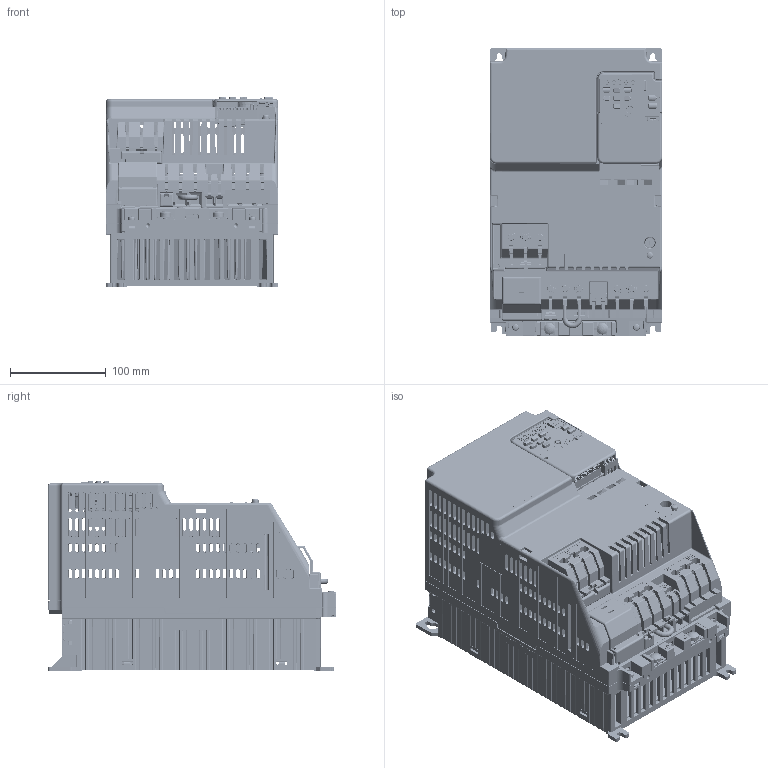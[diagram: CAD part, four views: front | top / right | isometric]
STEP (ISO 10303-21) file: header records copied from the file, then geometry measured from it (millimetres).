
FILE_DESCRIPTION((''),'2;1');
FILE_NAME('GA500_EMC_FRAME_V6-A_ASM','2019-03-08T',('jam'),('YASKAWA ELECTRIC CORCORATION'),'PRO/ENGINEER BY PARAMETRIC TECHNOLOGY CORPORATION, 2015440','PRO/ENGINEER BY PARAMETRIC TECHNOLOGY CORPORATION, 2015440','');
FILE_SCHEMA(('CONFIG_CONTROL_DESIGN'));
Products named in the file (54): LAY_KIPR-GA50_Q_2056_1; 400-104-202_1; 400-104-430_1; SCAT41094_1; 06025VG-24S-BA-YY_02_1; 400-104-173_1; 400-104-279-01B-1_1; MKDS10HV_2-ZB-10P16_1; 300-093-088_1; ETP761690_ASM_1_ASM; SCAT41285_M4X12_TOGARISAKIKARI_; 400-104-428_ASM_1_ASM; 400-104-310-01C-2_1; ETX731460_ASM_1_ASM; TS21A_M4-08_1; 400-104-676_1; HSR-M4-7P4_1; 400-104-676_ASM_1_ASM; 400-104-023-01F-5_1; 95003-2884_1; B12B-PASK-1_1; 1734753-1_AF1_1; DHB-PD20-S131N-4P9_AF1_1; KARI_SPTA1_9-3P5_AF0_1; KARI_SPTA1_8-3P5_AF0_1; SPTA1_11-3P5_AF0_1; SPTA1_3-5P0_AF0_1; KTC750050-SXXXX_ASM_1_ASM; WRMT41412_ASM_1; 400-115-277_1; F354371_1; F354373_1; F354374_1; F354372_1; V-GEM_PWB2_1; 55265-0811_AF0_1; SM10B-SURS-TF_1_1; V-GIM_PWB_ASM2_ASM_1_ASM; GA500_KEYPAD_20180227_ASM_1_ASM; 400-104-186_1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
Assembly tree (62 placements, depth 5):
  GA500_EMC_FRAME_V6-A_ASM
    KIPR-GA50_Q_2056_ASM_1_ASM
      LAY_KIPR-GA50_Q_2056_1
      400-104-202_1
      400-104-430_1
      SCAT41094_1  x2
      06025VG-24S-BA-YY_02_1  x2
      400-104-173_1
      ETP761690_ASM_1_ASM
        400-104-279-01B-1_1
        MKDS10HV_2-ZB-10P16_1
        300-093-088_1  x2
      SCAT41285_M4X12_TOGARISAKIKARI_  x4
      400-104-428_ASM_1_ASM
      ETX731460_ASM_1_ASM
        400-104-310-01C-2_1
        300-093-088_1
      TS21A_M4-08_1  x2
      400-104-676_ASM_1_ASM
        400-104-676_1
        HSR-M4-7P4_1
      KTC750050-SXXXX_ASM_1_ASM
        400-104-023-01F-5_1
        95003-2884_1
        B12B-PASK-1_1
        1734753-1_AF1_1
        DHB-PD20-S131N-4P9_AF1_1
        KARI_SPTA1_9-3P5_AF0_1
        KARI_SPTA1_8-3P5_AF0_1
        SPTA1_11-3P5_AF0_1
        SPTA1_3-5P0_AF0_1
      WRMT41412_ASM_1
      400-115-277_1
      GA500_KEYPAD_20180227_ASM_1_ASM
        F354371_1
        F354373_1
        F354374_1
        F354372_1
        V-GIM_PWB_ASM2_ASM_1_ASM
          V-GEM_PWB2_1
          55265-0811_AF0_1
          SM10B-SURS-TF_1_1
      400-104-186_1
      400-104-251_1
      400-112-421_1
      400-112-422_1
      400-107-678_1
      400-115-297-005_1
      MS15_M4X20_1
      400-104-204_4_1  x2
      400-104-204_1_1
      400-104-204_2_1
      400-104-204_3_1
      400-104-206_6_1
      400-104-204_7_1
Bounding box: 180.02 x 300 x 198.75 mm (x, y, z)
Volume: 916638.5 mm3; surface area: 1031515.5 mm2
Topology: 51 solids, 78 shells, 23909 faces, 66095 edges, 42650 vertices
Faces by surface type: plane 14403, cylinder 4998, bspline 1875, cone 1650, torus 702, sphere 280, revolution 1
Entity records: 851958 total; most frequent: CARTESIAN_POINT 285679, ORIENTED_EDGE 125348, DIRECTION 106323, EDGE_CURVE 62674, VECTOR 43408, LINE 43408, VERTEX_POINT 40579, AXIS2_PLACEMENT_3D 31457
